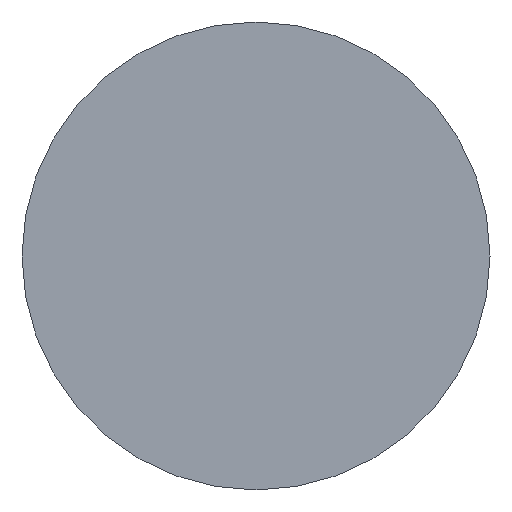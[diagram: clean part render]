
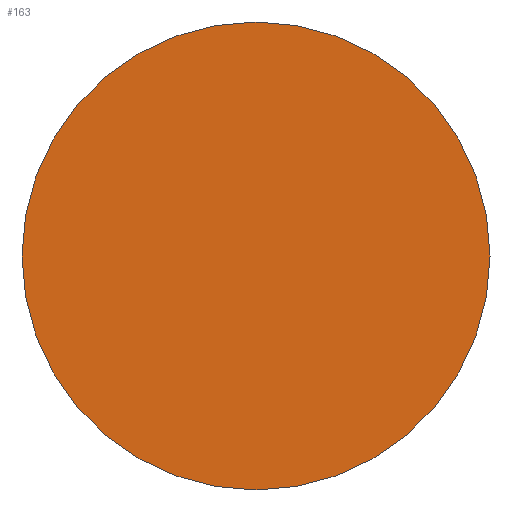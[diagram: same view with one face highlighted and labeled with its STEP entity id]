
A CAD part, top view. The second image highlights one B-rep face of the part: STEP entity #163.
In plain terms, the highlighted planar face has unit normal (0, 0, 1).
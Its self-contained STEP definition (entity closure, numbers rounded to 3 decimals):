
#43 = CONICAL_SURFACE('',#44,1.,0.695);
#44 = AXIS2_PLACEMENT_3D('',#45,#46,#47);
#45 = CARTESIAN_POINT('',(-17.,-32.,16.8));
#46 = DIRECTION('',(0.,0.,1.));
#47 = DIRECTION('',(1.,0.,-0.));
#108 = EDGE_CURVE('',#109,#109,#111,.T.);
#109 = VERTEX_POINT('',#110);
#110 = CARTESIAN_POINT('',(-15.,-32.,18.));
#111 = SURFACE_CURVE('',#112,(#117,#124),.PCURVE_S1.);
#112 = CIRCLE('',#113,2.);
#113 = AXIS2_PLACEMENT_3D('',#114,#115,#116);
#114 = CARTESIAN_POINT('',(-17.,-32.,18.));
#115 = DIRECTION('',(0.,0.,1.));
#116 = DIRECTION('',(1.,0.,-0.));
#117 = PCURVE('',#43,#118);
#118 = DEFINITIONAL_REPRESENTATION('',(#119),#123);
#119 = LINE('',#120,#121);
#120 = CARTESIAN_POINT('',(0.,1.2));
#121 = VECTOR('',#122,1.);
#122 = DIRECTION('',(1.,0.));
#123 = ( GEOMETRIC_REPRESENTATION_CONTEXT(2) 
PARAMETRIC_REPRESENTATION_CONTEXT() REPRESENTATION_CONTEXT('2D SPACE',''
  ) );
#124 = PCURVE('',#125,#130);
#125 = PLANE('',#126);
#126 = AXIS2_PLACEMENT_3D('',#127,#128,#129);
#127 = CARTESIAN_POINT('',(-17.,-32.,18.));
#128 = DIRECTION('',(0.,0.,1.));
#129 = DIRECTION('',(1.,0.,-0.));
#130 = DEFINITIONAL_REPRESENTATION('',(#131),#135);
#131 = CIRCLE('',#132,2.);
#132 = AXIS2_PLACEMENT_2D('',#133,#134);
#133 = CARTESIAN_POINT('',(0.,0.));
#134 = DIRECTION('',(1.,0.));
#135 = ( GEOMETRIC_REPRESENTATION_CONTEXT(2) 
PARAMETRIC_REPRESENTATION_CONTEXT() REPRESENTATION_CONTEXT('2D SPACE',''
  ) );
#163 = ADVANCED_FACE('',(#164),#125,.T.);
#164 = FACE_BOUND('',#165,.T.);
#165 = EDGE_LOOP('',(#166));
#166 = ORIENTED_EDGE('',*,*,#108,.T.);
